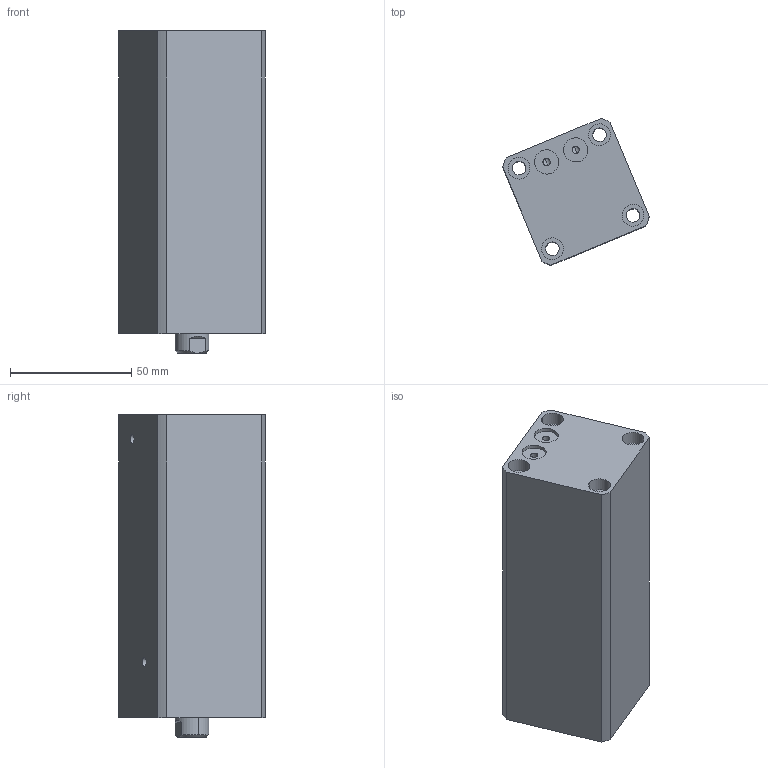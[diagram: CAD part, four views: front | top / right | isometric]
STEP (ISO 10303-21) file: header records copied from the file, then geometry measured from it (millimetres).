
FILE_DESCRIPTION (( 'STEP AP214' ), '1' );
FILE_NAME ('chtb-sdmb25x80n_asm.STEP', '2018-05-24T01:41:01', ( 'Windows' ), ( 'Microsoft' ), 'SwSTEP 2.0', 'SolidWorks 2015', '' );
FILE_SCHEMA (( 'AUTOMOTIVE_DESIGN' ));
Length unit declared in the file: millimetre
Products named in the file (4): CHTB-25QG; chtb-sdmb25x80n_asm; CHTB-SDMB25X80NHSG; CHTB-SDMB25X80NBT
Assembly tree (3 placements, depth 2):
  chtb-sdmb25x80n_asm
    CHTB-25QG
    CHTB-SDMB25X80NBT
    CHTB-SDMB25X80NHSG
Bounding box: 60.55 x 60.55 x 133 mm (x, y, z)
Volume: 242484.3 mm3; surface area: 60823.6 mm2
Topology: 3 solids, 3 shells, 142 faces, 379 edges, 257 vertices
Faces by surface type: cylinder 89, plane 34, bspline 10, cone 9
Entity records: 8024 total; most frequent: CARTESIAN_POINT 4397, ORIENTED_EDGE 746, DIRECTION 661, EDGE_CURVE 373, AXIS2_PLACEMENT_3D 272, VERTEX_POINT 257, EDGE_LOOP 180, FACE_OUTER_BOUND 142
